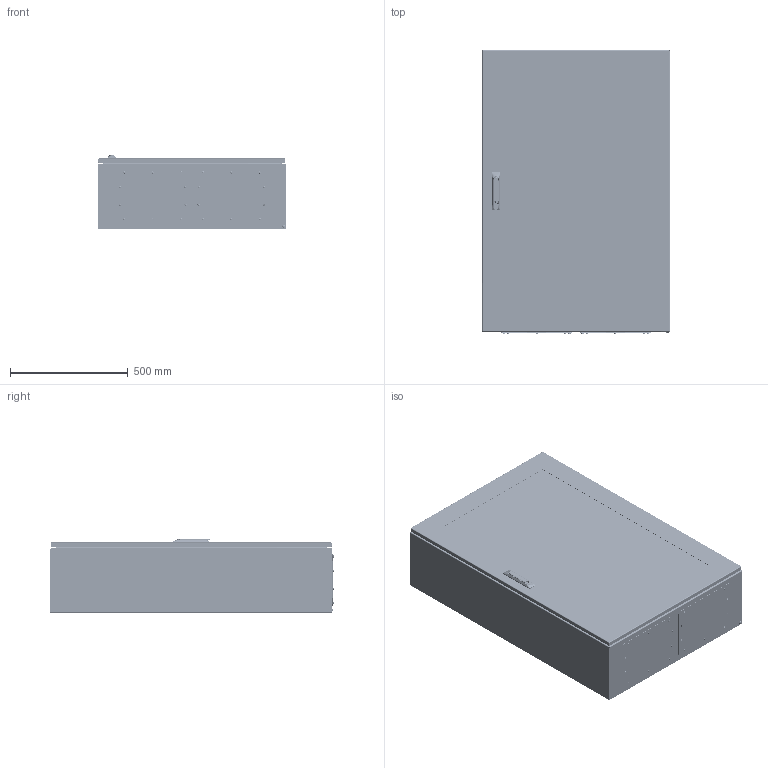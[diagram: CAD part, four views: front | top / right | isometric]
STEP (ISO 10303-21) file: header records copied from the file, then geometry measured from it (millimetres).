
FILE_DESCRIPTION (( 'STEP AP214' ), '1' );
FILE_NAME ('CCV 120.80.30.STEP', '2025-09-19T05:57:47', ( '' ), ( '' ), 'SwSTEP 2.0', 'SolidWorks 2019', '' );
FILE_SCHEMA (( 'AUTOMOTIVE_DESIGN' ));
Length unit declared in the file: millimetre
Products named in the file (37): Ãàéêà Ì8 DIN 934; Øïèëüêà çàçåìëåíèÿ Ì6õ17,5_˜¯¨«ìª  § §¥¬«¥­¨ï Œ6å17,5 á ª®«¯ çª®¬; CCS X.Y.30(40).01.001 Êîðïóñ_ïàíåëü ñðåäíÿÿ_CCS 120.80.30; PKV Y.22 相礤朦 赅徨朦眍泐 忖钿郷PKV 40.22; Ïåòëÿ KIT_Ìîäóëü_êîðïóñíàÿ ÷àñòü â ñáîðå; hex flange nut_din_Hexagon Flange Nut DIN 6923 - M6 - N; Òÿãà ïëîñêàÿ LG006 A=16ìì_120 (‡ ¬®ª-àãçª  1413); ÇÀÌÎÊ-ÐÓ×ÊÀ 1413-D53-SS_‡ ªàëâ; CCS Y.Z.01.002 Êîðïóñ_ïàíåëü âåðõíÿÿ_CCS 80.30; hex flange nut_din_Hexagon Flange Nut DIN 6923 - M8 - N; KIT_Çàæèìíîå êîëüöî_ïîëèîêñèìåòèëåí_ô5_EMKA 1031-U16; CCS X.Y.30(40).01.000ÑÁ Êîðïóñ øêàôà ñâàðíîé_CCS 120.80.30; RG 001-2 Äåðæàòåëü ïëîñêîé òÿãè (ïîëèàìèä); Ïåòëÿ ïðèâàðíàÿ ÷àñòü; KIT_Øòèôò_ô5_Ìîäóëü; CCV X.Y.02.000蚜 拟屦黖CCV 120.80; Essentra_d6,3_1287228; CCV X.Y.02.001 拟屦黖CCV 120.80; pan head cross recess screw_din_DIN EN ISO 7045 - M6 x 16 - Z - 16N; CCV 120.80.30; Âèíò ðåçüáîâûäàâëèâàþùèé ñ ïîëóïîòàéíîé ãîëîâêîé Ì5õ12; Ðèãåëü S1B4500 (ïëîñêèé); Øïèëüêà çàçåìëåíèÿ Ì6õ17,5_˜¯¨«ìª  § §¥¬«¥­¨ï Œ6å17,5; CCS Y.Z.01.003 Êîðïóñ_ïàíåëü íèæíÿÿ_CCS 80.30; pan head cross recess screw_din_DIN EN ISO 7045 - M5 x 6 - Z - 6N; Âñòàâêà ðèãåëÿ S1B4500; Øïèëüêà Ì6õ13; Ïåòëÿ KIT_Ìîäóëü_êîðïóñíàÿ ÷àñòü; MPC X.Y Ïàíåëü ìîíòàæíàÿ_MPC 120.80 (2,5); plain washer grade a_din_Washer DIN 125 - A 5.3; CCV X.Y.02.002 栺樏鋋_CCV 120.80; Øïèëüêà Ì8õ25; Essentra_d9.3_055009300003; Çàìîê MS8035-1 (1413-D53-RAL7035)_Žâªàëâ
Assembly tree (108 placements, depth 3):
  CCV 120.80.30
    CCS X.Y.30(40).01.000ÑÁ Êîðïóñ øêàôà ñâàðíîé_CCS 120.80.30
      CCS X.Y.30(40).01.001 Êîðïóñ_ïàíåëü ñðåäíÿÿ_CCS 120.80.30
      CCS Y.Z.01.003 Êîðïóñ_ïàíåëü íèæíÿÿ_CCS 80.30
      CCS Y.Z.01.002 Êîðïóñ_ïàíåëü âåðõíÿÿ_CCS 80.30
      Øïèëüêà çàçåìëåíèÿ Ì6õ17,5_˜¯¨«ìª  § §¥¬«¥­¨ï Œ6å17,5  x4
      Øïèëüêà Ì8õ25  x6
    Ïåòëÿ KIT_Ìîäóëü_êîðïóñíàÿ ÷àñòü â ñáîðå
      Ïåòëÿ KIT_Ìîäóëü_êîðïóñíàÿ ÷àñòü
      KIT_Øòèôò_ô5_Ìîäóëü
      KIT_Çàæèìíîå êîëüöî_ïîëèîêñèìåòèëåí_ô5_EMKA 1031-U16
    Ïåòëÿ KIT_Ìîäóëü_êîðïóñíàÿ ÷àñòü â ñáîðå
      Ïåòëÿ KIT_Ìîäóëü_êîðïóñíàÿ ÷àñòü
      KIT_Øòèôò_ô5_Ìîäóëü
      KIT_Çàæèìíîå êîëüöî_ïîëèîêñèìåòèëåí_ô5_EMKA 1031-U16
    Ïåòëÿ KIT_Ìîäóëü_êîðïóñíàÿ ÷àñòü â ñáîðå
      Ïåòëÿ KIT_Ìîäóëü_êîðïóñíàÿ ÷àñòü
      KIT_Øòèôò_ô5_Ìîäóëü
      KIT_Çàæèìíîå êîëüöî_ïîëèîêñèìåòèëåí_ô5_EMKA 1031-U16
    Ïåòëÿ KIT_Ìîäóëü_êîðïóñíàÿ ÷àñòü â ñáîðå
      Ïåòëÿ KIT_Ìîäóëü_êîðïóñíàÿ ÷àñòü
      KIT_Øòèôò_ô5_Ìîäóëü
      KIT_Çàæèìíîå êîëüöî_ïîëèîêñèìåòèëåí_ô5_EMKA 1031-U16
    CCV X.Y.02.000蚜 拟屦黖CCV 120.80
      CCV X.Y.02.001 拟屦黖CCV 120.80
      Øïèëüêà çàçåìëåíèÿ Ì6õ17,5_˜¯¨«ìª  § §¥¬«¥­¨ï Œ6å17,5 á ª®«¯ çª®¬
      Øïèëüêà Ì6õ13  x4
      CCV X.Y.02.002 栺樏鋋_CCV 120.80
      Ïåòëÿ ïðèâàðíàÿ ÷àñòü  x3
    MPC X.Y Ïàíåëü ìîíòàæíàÿ_MPC 120.80 (2,5)
    pan head cross recess screw_din_DIN EN ISO 7045 - M5 x 6 - Z - 6N  x3
    plain washer grade a_din_Washer DIN 125 - A 5.3  x3
    Ãàéêà Ì8 DIN 934  x6
    hex flange nut_din_Hexagon Flange Nut DIN 6923 - M8 - N  x6
    Essentra_d9.3_055009300003
    Essentra_d6,3_1287228  x3
    PKV Y.22 相礤朦 赅徨朦眍泐 忖钿郷PKV 40.22  x2
    Âèíò ðåçüáîâûäàâëèâàþùèé ñ ïîëóïîòàéíîé ãîëîâêîé Ì5õ12  x20
    hex flange nut_din_Hexagon Flange Nut DIN 6923 - M6 - N  x8
    pan head cross recess screw_din_DIN EN ISO 7045 - M6 x 16 - Z - 16N  x4
    RG 001-2 Äåðæàòåëü ïëîñêîé òÿãè (ïîëèàìèä)  x4
    Òÿãà ïëîñêàÿ LG006 A=16ìì_120 (‡ ¬®ª-àãçª  1413)  x2
    ÇÀÌÎÊ-ÐÓ×ÊÀ 1413-D53-SS_‡ ªàëâ
      Çàìîê MS8035-1 (1413-D53-RAL7035)_Žâªàëâ
      Ðèãåëü S1B4500 (ïëîñêèé)
      Âñòàâêà ðèãåëÿ S1B4500
Bounding box: 800 x 1207.22 x 313.69 mm (x, y, z)
Volume: 8984363.5 mm3; surface area: 8832903.5 mm2
Topology: 137 solids, 137 shells, 9022 faces, 22430 edges, 13585 vertices
Faces by surface type: cylinder 3385, plane 2608, bspline 1039, torus 784, cone 736, sphere 470
Entity records: 250926 total; most frequent: CARTESIAN_POINT 120848, ORIENTED_EDGE 28264, DIRECTION 24780, EDGE_CURVE 14132, AXIS2_PLACEMENT_3D 9539, VERTEX_POINT 8687, EDGE_LOOP 5973, VECTOR 5702
